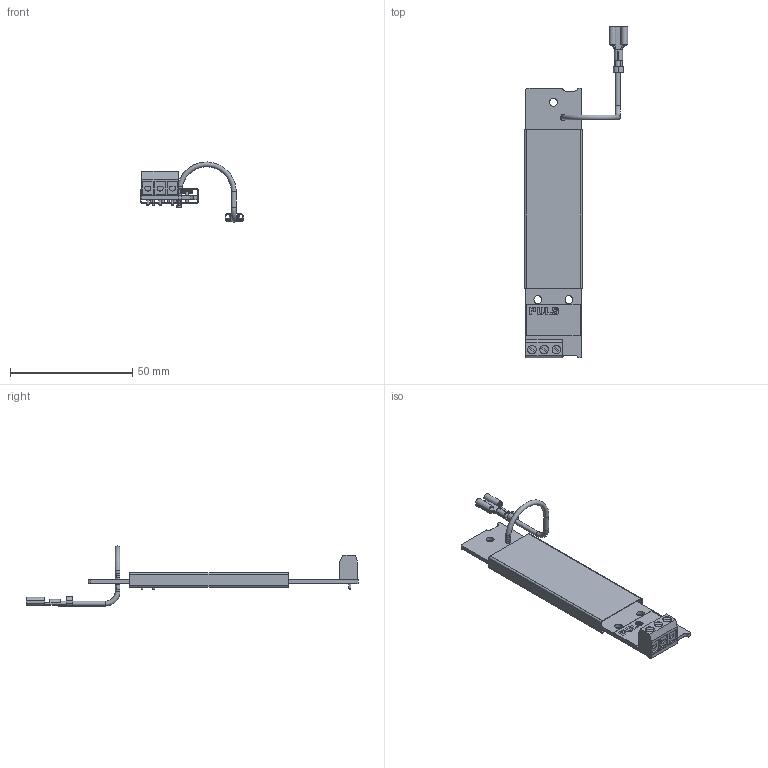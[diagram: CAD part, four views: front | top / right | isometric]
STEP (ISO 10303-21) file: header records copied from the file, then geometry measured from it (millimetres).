
FILE_DESCRIPTION((''),'2;1');
FILE_NAME('C:\Users\rahns\Desktop\Marketing\Proi2\SD1UZS24-100SR1_SC_2014-07-07.stp','2014-07-07T14:17:15',('rahns'),(''),'Autodesk Inventor 2009','Autodesk Inventor 2009','');
FILE_SCHEMA(('AUTOMOTIVE_DESIGN { 1 0 10303 214 1 1 1 1 }'));
Length unit declared in the file: millimetre
Products named in the file (11): PCB 393; ep-393; RW-OR015-DA; XT-LP3BL-D9; FY-RGEF400-x1; AZ-393-Schrumpfschlauch; EL-393; WI-393; ES-ELH6-20-einbau; AZ-393 Kabel blau kurz-einbau; XS-STEHU6_1-20
Assembly tree (16 placements, depth 3):
  PCB 393
    ep-393
    RW-OR015-DA  x7
    XT-LP3BL-D9
    FY-RGEF400-x1
    AZ-393-Schrumpfschlauch
    EL-393
    WI-393
      ES-ELH6-20-einbau
      AZ-393 Kabel blau kurz-einbau
    XS-STEHU6_1-20
Bounding box: 42.3 x 135.9 x 24.61 mm (x, y, z)
Volume: 6619.3 mm3; surface area: 16279.1 mm2
Topology: 15 solids, 15 shells, 350 faces, 865 edges, 558 vertices
Faces by surface type: plane 176, cylinder 115, bspline 36, torus 20, cone 3
Full cylindrical faces by diameter (mm): 0.73 x4, 0.813 x2, 1 x24, 1.295 x14, 1.397 x3, 1.5 x1, 2 x4, 2.413 x1, 3.2 x3, 3.5 x3
Entity records: 10055 total; most frequent: CARTESIAN_POINT 2284, DIRECTION 1487, ORIENTED_EDGE 1422, EDGE_CURVE 711, AXIS2_PLACEMENT_3D 533, VERTEX_POINT 488, EDGE_LOOP 429, VECTOR 421
